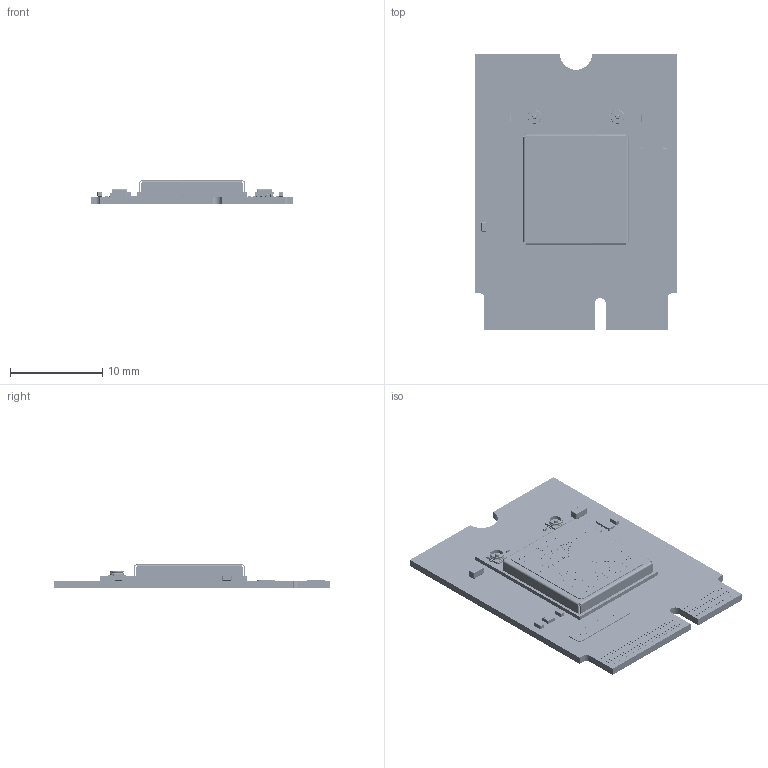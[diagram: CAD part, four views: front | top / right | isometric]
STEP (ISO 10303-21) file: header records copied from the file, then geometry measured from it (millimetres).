
FILE_DESCRIPTION (( 'STEP AP214' ), '1' );
FILE_NAME ('453-00165.STEP', '2026-05-28T01:19:37', ( '' ), ( '' ), 'SwSTEP 2.0', 'SolidWorks 2025', '' );
FILE_SCHEMA (( 'AUTOMOTIVE_DESIGN' ));
Length unit declared in the file: millimetre
Products named in the file (10): 160-02406_453-00165; 453-00157; 940-00283; 940-00274; 160-02404_453-00157; 160-02407_453-00165; 110-00821; 453-00165
Assembly tree (9 placements, depth 5):
  453-00165
    940-00283
      940-00283
      453-00157
        940-00274
          940-00274
          110-00821
        160-02404_453-00157
    160-02406_453-00165
    160-02407_453-00165
Bounding box: 22 x 30 x 2.7 mm (x, y, z)
Volume: 566.5 mm3; surface area: 3587.4 mm2
Topology: 218 solids, 581 shells, 15662 faces, 39750 edges, 25342 vertices
Faces by surface type: plane 7573, cylinder 5707, bspline 1350, sphere 984, torus 36, cone 12
Entity records: 637723 total; most frequent: CARTESIAN_POINT 139177, ORIENTED_EDGE 78750, DIRECTION 78115, EDGE_CURVE 39466, AXIS2_PLACEMENT_3D 26566, VERTEX_POINT 25258, LINE 24983, VECTOR 24983
